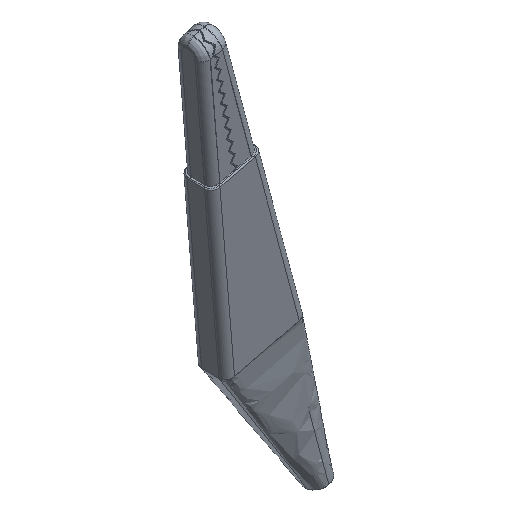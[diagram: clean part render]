
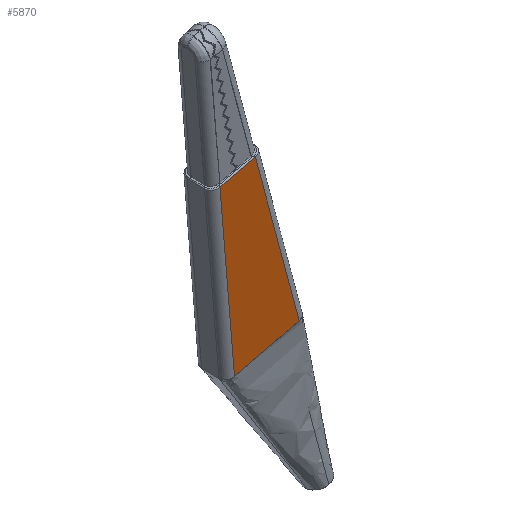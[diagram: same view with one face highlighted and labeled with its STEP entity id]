
A CAD part, isometric view. The second image highlights one B-rep face of the part: STEP entity #5870.
In plain terms, the highlighted planar face has unit normal (-0.017, -1, -0.004).
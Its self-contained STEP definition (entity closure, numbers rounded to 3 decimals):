
#48 = FACE_OUTER_BOUND ( 'NONE', #5858, .T. ) ;
#170 = EDGE_CURVE ( 'NONE', #347, #5449, #6929, .T. ) ;
#347 = VERTEX_POINT ( 'NONE', #7658 ) ;
#1581 = ORIENTED_EDGE ( 'NONE', *, *, #8692, .T. ) ;
#1814 = LINE ( 'NONE', #4530, #11810 ) ;
#2340 = DIRECTION ( 'NONE',  ( -0.966, 0.017, -0.259 ) ) ;
#4059 = EDGE_CURVE ( 'NONE', #10314, #7457, #11188, .T. ) ;
#4503 = CARTESIAN_POINT ( 'NONE',  ( 0.139, 0.295, 2.295 ) ) ;
#4530 = CARTESIAN_POINT ( 'NONE',  ( 5.392, 0.281, -14.221 ) ) ;
#4646 = DIRECTION ( 'NONE',  ( 0.966, -0.017, 0.259 ) ) ;
#4722 = VECTOR ( 'NONE', #10234, 1000. ) ;
#4892 = LINE ( 'NONE', #8956, #10303 ) ;
#5449 = VERTEX_POINT ( 'NONE', #5625 ) ;
#5625 = CARTESIAN_POINT ( 'NONE',  ( 0.139, 0.295, 2.295 ) ) ;
#5698 = CARTESIAN_POINT ( 'NONE',  ( -1.853, 0.413, -16.306 ) ) ;
#5858 = EDGE_LOOP ( 'NONE', ( #1581, #6554, #9643, #9237 ) ) ;
#5870 = ADVANCED_FACE ( 'NONE', ( #48 ), #6399, .T. ) ;
#6399 = PLANE ( 'NONE',  #11100 ) ;
#6554 = ORIENTED_EDGE ( 'NONE', *, *, #170, .T. ) ;
#6929 = LINE ( 'NONE', #4503, #7437 ) ;
#7283 = CARTESIAN_POINT ( 'NONE',  ( -3.398, 0.359, 1.348 ) ) ;
#7429 = CARTESIAN_POINT ( 'NONE',  ( 0.011, 0.308, 0.069 ) ) ;
#7437 = VECTOR ( 'NONE', #11027, 1000. ) ;
#7457 = VERTEX_POINT ( 'NONE', #8280 ) ;
#7658 = CARTESIAN_POINT ( 'NONE',  ( 4.62, 0.295, -14.428 ) ) ;
#8280 = CARTESIAN_POINT ( 'NONE',  ( -1.865, 0.413, -16.166 ) ) ;
#8413 = DIRECTION ( 'NONE',  ( -0.017, -1., -0.005 ) ) ;
#8692 = EDGE_CURVE ( 'NONE', #7457, #347, #1814, .T. ) ;
#8956 = CARTESIAN_POINT ( 'NONE',  ( -4.166, 0.373, 1.142 ) ) ;
#9237 = ORIENTED_EDGE ( 'NONE', *, *, #4059, .T. ) ;
#9299 = DIRECTION ( 'NONE',  ( -0.259, 0., 0.966 ) ) ;
#9643 = ORIENTED_EDGE ( 'NONE', *, *, #9982, .T. ) ;
#9982 = EDGE_CURVE ( 'NONE', #5449, #10314, #4892, .T. ) ;
#10234 = DIRECTION ( 'NONE',  ( 0.087, 0.003, -0.996 ) ) ;
#10303 = VECTOR ( 'NONE', #2340, 1000. ) ;
#10314 = VERTEX_POINT ( 'NONE', #7283 ) ;
#11027 = DIRECTION ( 'NONE',  ( -0.259, 0., 0.966 ) ) ;
#11100 = AXIS2_PLACEMENT_3D ( 'NONE', #7429, #8413, #9299 ) ;
#11188 = LINE ( 'NONE', #5698, #4722 ) ;
#11810 = VECTOR ( 'NONE', #4646, 1000. ) ;
